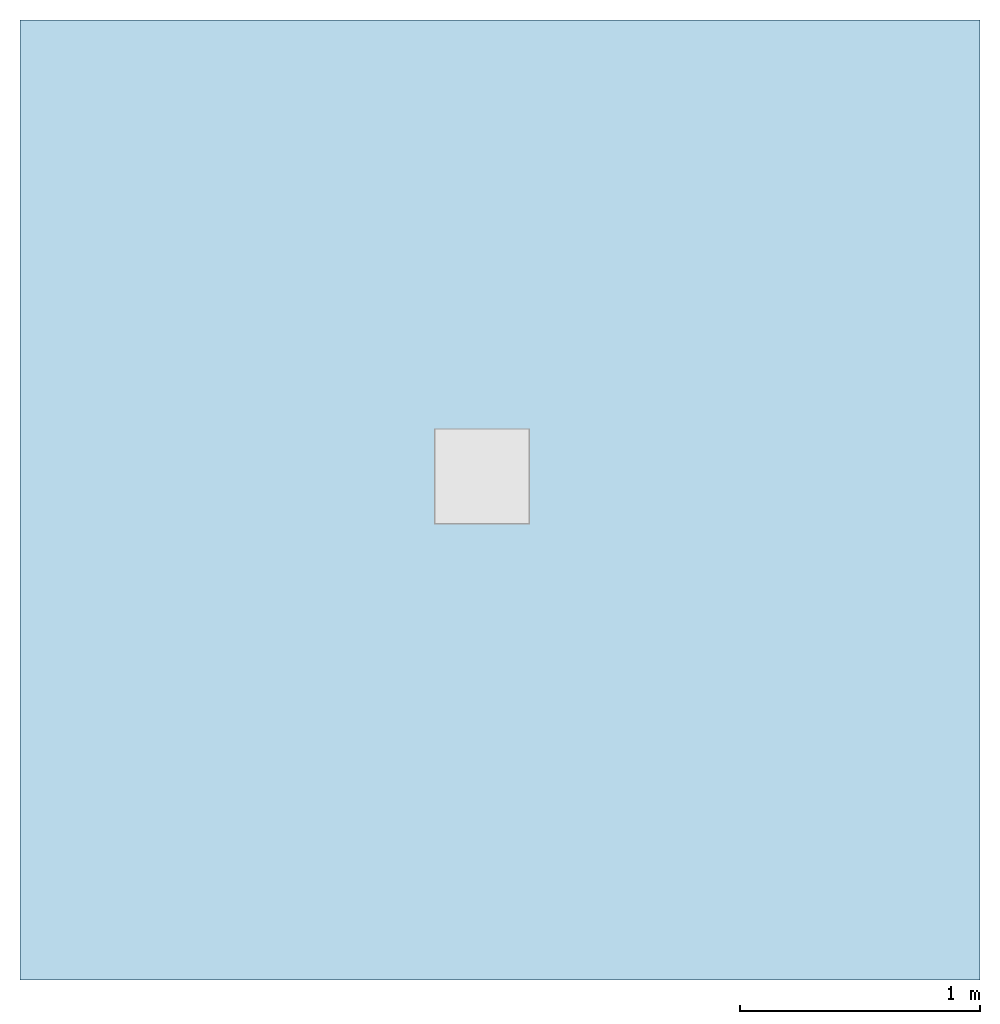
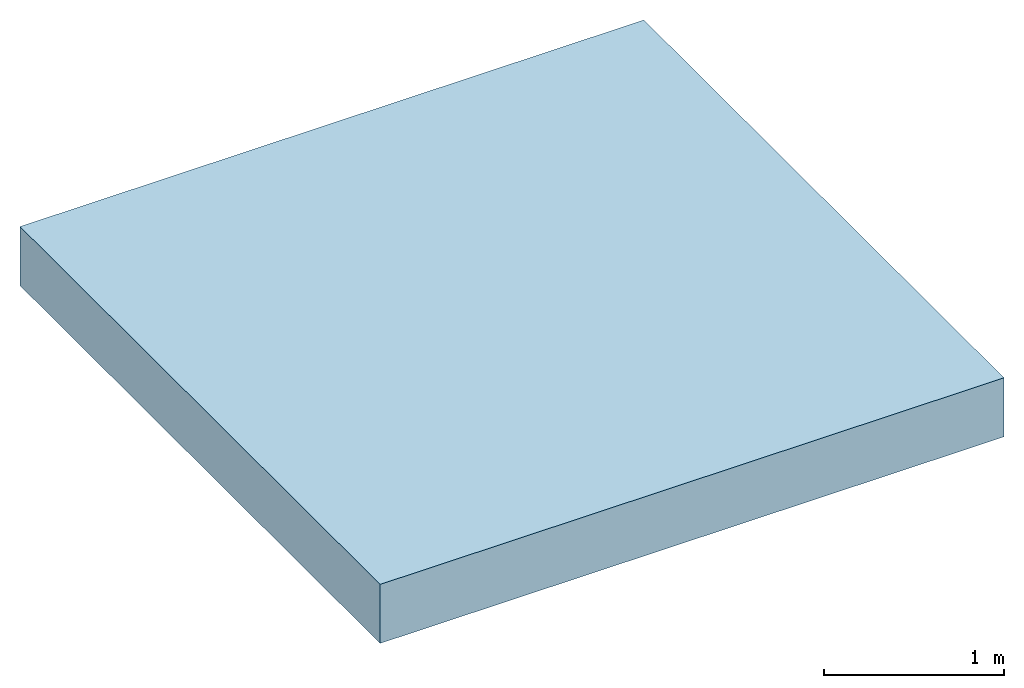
# One storey, incomplete: 1 slab, 2 openings.
"""IFC2X3 building model written with IfcOpenShell, lengths in millimetres."""

from ifc_helpers import new_model, entity, si_unit, converted_unit, derived_unit, direction, frame, frame_2d, origin, place, context, subcontext, project, spatial, rectangle, extrude, faceted_brep, material, layer, layer_set, layer_usage, element, save


model = new_model("IFC2X3")

# Units and contexts
model_context = context("Model", 3, precision=1e-05, world=origin(), true_north=direction((2.0, 6.12303176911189e-17, 1.0)))
context_of_model = context(None, 3, precision=1e-05, world=origin(), true_north=direction((2.0, 6.12303176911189e-17, 1.0)))
body_context = subcontext(model_context, "Body", "Model", "MODEL_VIEW")
ifc_project = project(units=[si_unit("LENGTHUNIT", "METRE", prefix="MILLI"), si_unit("AREAUNIT", "SQUARE_METRE"), si_unit("VOLUMEUNIT", "CUBIC_METRE"), converted_unit("PLANEANGLEUNIT", "DEGREE", entity("IfcRatioMeasure", 0.0174532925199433), si_unit("PLANEANGLEUNIT", "RADIAN"), dimensions=[0, 0, 0, 0, 0, 0, 0]), si_unit("MASSUNIT", "GRAM", prefix="KILO"), si_unit("TIMEUNIT", "SECOND"), si_unit("THERMODYNAMICTEMPERATUREUNIT", "KELVIN"), derived_unit("THERMALTRANSMITTANCEUNIT", [(si_unit("MASSUNIT", "GRAM", prefix="KILO"), 1), (si_unit("THERMODYNAMICTEMPERATUREUNIT", "KELVIN"), -1), (si_unit("TIMEUNIT", "SECOND"), -3)]), derived_unit("VOLUMETRICFLOWRATEUNIT", [(si_unit("LENGTHUNIT", "METRE"), 3), (si_unit("TIMEUNIT", "SECOND"), -1)]), si_unit("POWERUNIT", "WATT")], contexts=[model_context, context_of_model])

# Site, building, storey
site_placement = place(None, origin())
site = spatial("IfcSite", under=ifc_project, at=site_placement, Name="Default", CompositionType="ELEMENT")
building_placement = place(site_placement, origin())
building = spatial("IfcBuilding", under=site, at=building_placement, CompositionType="ELEMENT")
storey_placement = place(building_placement, origin())
storey = spatial("IfcBuildingStorey", under=building, at=storey_placement, Name="Level 1", CompositionType="ELEMENT", Elevation=0.0)

# Slab, openings
ifc_material = material(Name="Concrete, Broom Finish")
ifc_layer = layer(ifc_material, 400.0)
ifc_layer_set = layer_set([ifc_layer], Name="Floor:Generic Floor - 400mm")
ifc_layer_usage = layer_usage(ifc_layer_set, "AXIS3", "POSITIVE", 0.0)
slab_placement = place(storey_placement, origin())
slab = element("IfcSlab", 1, at=slab_placement, inside=storey, material=ifc_layer_usage, Name="Floor:Generic Floor - 400mm", ObjectType="Floor:Generic Floor - 400mm", PredefinedType="FLOOR", context=body_context, shape_type="SweptSolid", body=[
    extrude(rectangle(XDim=4000.0, YDim=4000.0, at=frame_2d((0.0, 0.0), x_axis=(0.0, -1.0))), frame((-42.176138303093, 2.05004766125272, 0.0), z_axis=(0.0, 0.0, -1.0), x_axis=(-1.0, 0.0, 0.0)), (0.0, 0.0, 1.0), 400.0),
])
opening_1_placement = place(slab_placement, frame((-314.362907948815, -96.8402164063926, -5050.0)))
element("IfcOpeningElement", 2, at=opening_1_placement, cuts=slab, ObjectType="Recess", context=body_context, shape_type="Brep", body=[
    faceted_brep([(-316.872907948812, 300.649783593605, -105.0), (83.1270920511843, 300.649783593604, -105.0), (83.1270920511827, -99.3502164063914, -105.0), (-316.872907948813, -99.3502164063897, -105.0), (83.1270920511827, -99.3502164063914, -30.0), (81.6270920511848, -97.8502164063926, -30.0), (-315.372907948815, -97.8502164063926, -30.0), (81.6270920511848, 299.149783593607, -30.0), (-316.872907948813, -99.3502164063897, -30.0), (-315.372907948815, 299.149783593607, -30.0), (83.1270920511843, 300.649783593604, -30.0), (-316.872907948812, 300.649783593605, -30.0), (-315.372907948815, -97.8502164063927, 2.0), (81.6270920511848, -97.8502164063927, 2.0), (81.6270920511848, 299.149783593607, 2.0), (-315.372907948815, 299.149783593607, 2.0)], [[[0, 1, 2]], [[2, 3, 0]], [[4, 5, 6]], [[5, 4, 7]], [[8, 6, 9]], [[6, 8, 4]], [[7, 10, 9]], [[10, 7, 4]], [[9, 11, 8]], [[11, 9, 10]], [[2, 1, 10]], [[10, 4, 2]], [[3, 2, 8]], [[4, 8, 2]], [[0, 3, 8]], [[8, 11, 0]], [[1, 0, 10]], [[11, 10, 0]], [[12, 13, 14]], [[14, 15, 12]], [[14, 13, 5]], [[5, 7, 14]], [[15, 14, 7]], [[7, 9, 15]], [[12, 15, 9]], [[9, 6, 12]], [[13, 12, 6]], [[6, 5, 13]]]),
])
opening_2_placement = place(slab_placement, frame((-314.362907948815, -96.8402164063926, -5050.0)))
element("IfcOpeningElement", 3, at=opening_2_placement, cuts=slab, ObjectType="Recess", context=body_context, shape_type="Brep", body=[
    faceted_brep([(394.979999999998, 0.0, 50.0), (247.49, 197.49, 50.0), (0.0, 0.0, 50.0), (394.979999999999, 394.979999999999, 50.0), (147.49, 197.49, 50.0), (0.0, 394.98, 50.0), (247.49, 297.49, 50.0), (147.49, 297.49, 50.0), (0.0, 394.98, 0.0), (394.979999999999, 394.979999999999, 0.0), (394.979999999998, 0.0, 0.0), (0.0, 0.0, 0.0), (147.49, 197.49, 80.0), (247.49, 197.49, 80.0), (247.49, 297.49, 80.0), (147.49, 297.49, 80.0)], [[[0, 1, 2]], [[1, 0, 3]], [[2, 4, 5]], [[4, 2, 1]], [[6, 3, 7]], [[3, 6, 1]], [[7, 5, 4]], [[5, 7, 3]], [[8, 9, 10]], [[10, 11, 8]], [[10, 9, 3]], [[3, 0, 10]], [[11, 10, 0]], [[0, 2, 11]], [[8, 11, 2]], [[2, 5, 8]], [[9, 8, 5]], [[5, 3, 9]], [[12, 4, 1]], [[1, 13, 12]], [[14, 6, 7]], [[7, 15, 14]], [[13, 1, 6]], [[6, 14, 13]], [[12, 13, 14]], [[14, 15, 12]], [[4, 12, 15]], [[15, 7, 4]]]),
])

save(model, "model.ifc")
